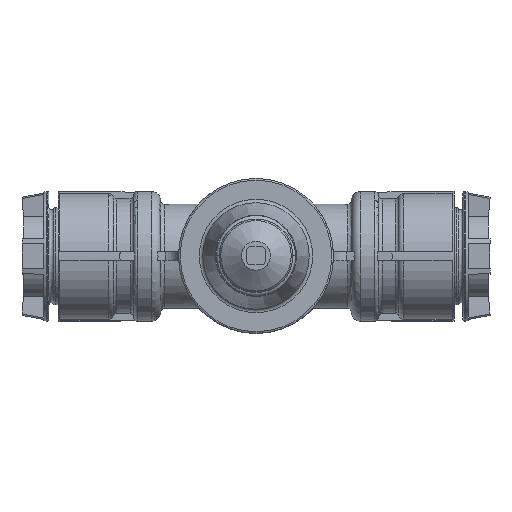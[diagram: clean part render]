
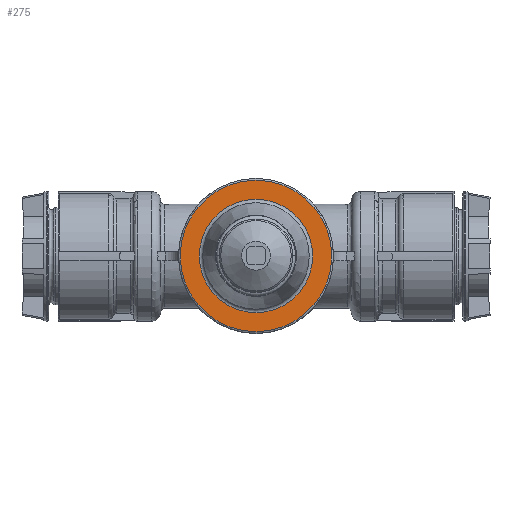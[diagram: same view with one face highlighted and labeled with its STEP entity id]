
A CAD part, top view. The second image highlights one B-rep face of the part: STEP entity #275.
In plain terms, the highlighted planar face has unit normal (0, 0, 1).
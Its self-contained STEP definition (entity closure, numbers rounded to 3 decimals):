
#275 = ADVANCED_FACE( '', ( #795, #796 ), #797, .F. );
#795 = FACE_BOUND( '', #1436, .T. );
#796 = FACE_OUTER_BOUND( '', #1437, .T. );
#797 = PLANE( '', #1438 );
#1436 = EDGE_LOOP( '', ( #3216 ) );
#1437 = EDGE_LOOP( '', ( #3217 ) );
#1438 = AXIS2_PLACEMENT_3D( '', #3218, #3219, #3220 );
#3216 = ORIENTED_EDGE( '', *, *, #4669, .F. );
#3217 = ORIENTED_EDGE( '', *, *, #4668, .T. );
#3218 = CARTESIAN_POINT( '', ( 42.07, 0., 105. ) );
#3219 = DIRECTION( '', ( 0., 0., -1. ) );
#3220 = DIRECTION( '', ( -1., 0., 0. ) );
#4668 = EDGE_CURVE( '', #5890, #5890, #5891, .T. );
#4669 = EDGE_CURVE( '', #5892, #5892, #5893, .T. );
#5890 = VERTEX_POINT( '', #9224 );
#5891 = CIRCLE( '', #9225, 42.07 );
#5892 = VERTEX_POINT( '', #9226 );
#5893 = CIRCLE( '', #9227, 31.508 );
#9224 = CARTESIAN_POINT( '', ( 42.07, 0., 105. ) );
#9225 = AXIS2_PLACEMENT_3D( '', #10388, #10389, #10390 );
#9226 = CARTESIAN_POINT( '', ( 31.508, 0., 105. ) );
#9227 = AXIS2_PLACEMENT_3D( '', #10391, #10392, #10393 );
#10388 = CARTESIAN_POINT( '', ( 0., 0., 105. ) );
#10389 = DIRECTION( '', ( 0., 0., 1. ) );
#10390 = DIRECTION( '', ( 1., 0., 0. ) );
#10391 = CARTESIAN_POINT( '', ( 0., 0., 105. ) );
#10392 = DIRECTION( '', ( 0., 0., 1. ) );
#10393 = DIRECTION( '', ( 1., 0., 0. ) );
